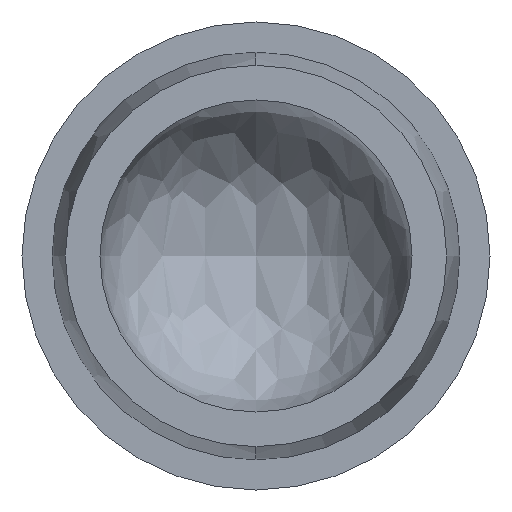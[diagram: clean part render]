
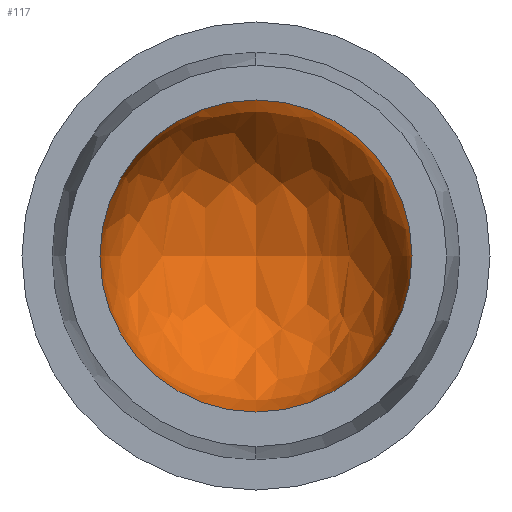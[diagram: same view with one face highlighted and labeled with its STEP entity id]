
A CAD part, left-side view. The second image highlights one B-rep face of the part: STEP entity #117.
In plain terms, the highlighted free-form (B-spline) face has degree [3, 3] with [4, 4] control points.
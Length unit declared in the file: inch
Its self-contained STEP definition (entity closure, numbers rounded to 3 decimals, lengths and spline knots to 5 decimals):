
#7 = CARTESIAN_POINT ( 'NONE',  ( -0.625, 0.375, -0.75 ) ) ;
#14 = ORIENTED_EDGE ( 'NONE', *, *, #187, .T. ) ;
#45 = CARTESIAN_POINT ( 'NONE',  ( 0.875, 0.375, 0.75 ) ) ;
#60 = CARTESIAN_POINT ( 'NONE',  ( -0.625, 0., 0. ) ) ;
#63 = VERTEX_POINT ( 'NONE', #299 ) ;
#86 = CARTESIAN_POINT ( 'NONE',  ( -0.625, 0.375, 0. ) ) ;
#97 = DIRECTION ( 'NONE',  ( 0., 1., 0. ) ) ;
#117 = ADVANCED_FACE ( 'NONE', ( #334 ), #302, .F. ) ;
#120 = CARTESIAN_POINT ( 'NONE',  ( -0.625, 0.375, 0. ) ) ;
#162 = CARTESIAN_POINT ( 'NONE',  ( -0.625, -0.375, 0. ) ) ;
#170 = DIRECTION ( 'NONE',  ( -1., 0., 0. ) ) ;
#185 = CARTESIAN_POINT ( 'NONE',  ( -0.625, 0.375, 0. ) ) ;
#187 = EDGE_CURVE ( 'NONE', #63, #358, #305, .T. ) ;
#196 = CARTESIAN_POINT ( 'NONE',  ( 0.875, -0.375, -0.75 ) ) ;
#220 = AXIS2_PLACEMENT_3D ( 'NONE', #60, #325, #97 ) ;
#228 = AXIS2_PLACEMENT_3D ( 'NONE', #393, #170, #435 ) ;
#235 = CARTESIAN_POINT ( 'NONE',  ( -0.625, -0.375, 0.75 ) ) ;
#245 = CIRCLE ( 'NONE', #220, 0.375 ) ;
#278 = CARTESIAN_POINT ( 'NONE',  ( 0.875, 0.375, -0.75 ) ) ;
#299 = CARTESIAN_POINT ( 'NONE',  ( -0.625, -0.375, 0. ) ) ;
#302 =( BOUNDED_SURFACE ( )  B_SPLINE_SURFACE ( 3, 3, ( 
 ( #428, #462, #313, #162 ),
 ( #423, #196, #460, #235 ),
 ( #7, #278, #45, #312 ),
 ( #86, #353, #120, #388 ) ),
 .UNSPECIFIED., .F., .F., .F. ) 
 B_SPLINE_SURFACE_WITH_KNOTS ( ( 4, 4 ),
 ( 4, 4 ),
 ( 0., 1. ),
 ( 0., 1. ),
 .UNSPECIFIED. ) 
 GEOMETRIC_REPRESENTATION_ITEM ( )  RATIONAL_B_SPLINE_SURFACE ( (
 ( 1., 0.333, 0.333, 1.),
 ( 0.333, 0.111, 0.111, 0.333),
 ( 0.333, 0.111, 0.111, 0.333),
 ( 1., 0.333, 0.333, 1.) ) ) 
 REPRESENTATION_ITEM ( '' )  SURFACE ( )  );
#305 = CIRCLE ( 'NONE', #228, 0.375 ) ;
#312 = CARTESIAN_POINT ( 'NONE',  ( -0.625, 0.375, 0.75 ) ) ;
#313 = CARTESIAN_POINT ( 'NONE',  ( -0.625, -0.375, 0. ) ) ;
#325 = DIRECTION ( 'NONE',  ( -1., 0., 0. ) ) ;
#334 = FACE_OUTER_BOUND ( 'NONE', #424, .T. ) ;
#353 = CARTESIAN_POINT ( 'NONE',  ( -0.625, 0.375, 0. ) ) ;
#358 = VERTEX_POINT ( 'NONE', #185 ) ;
#365 = ORIENTED_EDGE ( 'NONE', *, *, #418, .T. ) ;
#388 = CARTESIAN_POINT ( 'NONE',  ( -0.625, 0.375, 0. ) ) ;
#393 = CARTESIAN_POINT ( 'NONE',  ( -0.625, 0., 0. ) ) ;
#418 = EDGE_CURVE ( 'NONE', #358, #63, #245, .T. ) ;
#423 = CARTESIAN_POINT ( 'NONE',  ( -0.625, -0.375, -0.75 ) ) ;
#424 = EDGE_LOOP ( 'NONE', ( #14, #365 ) ) ;
#428 = CARTESIAN_POINT ( 'NONE',  ( -0.625, -0.375, 0. ) ) ;
#435 = DIRECTION ( 'NONE',  ( 0., 1., 0. ) ) ;
#460 = CARTESIAN_POINT ( 'NONE',  ( 0.875, -0.375, 0.75 ) ) ;
#462 = CARTESIAN_POINT ( 'NONE',  ( -0.625, -0.375, 0. ) ) ;
